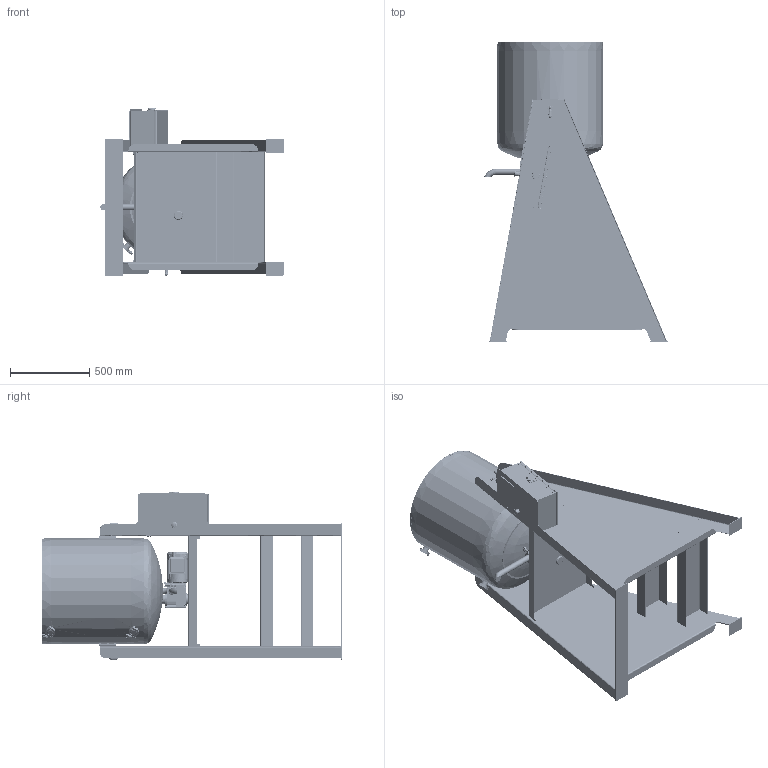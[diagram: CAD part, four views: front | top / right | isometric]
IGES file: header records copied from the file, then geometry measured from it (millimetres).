
Start section: SolidWorks IGES file using analytic representation for surfaces
Global section: file name: Y:\David Drop\MM65 CAD For Website\MM65_defeature.IGS; native system: SolidWorks 2023; preprocessor: SolidWorks 2023; author: David.Slater; date: 250925.094806; units: inch
Bounding box: 1158.98 x 1890.74 x 1056.99 mm (x, y, z)
Surface area: 12584678.5 mm2 (no closed solid volume)
Topology: 0 solids, 0 shells, 7253 faces, 71476 edges, 71409 vertices
Faces by surface type: bspline 5140, revolution 2113
